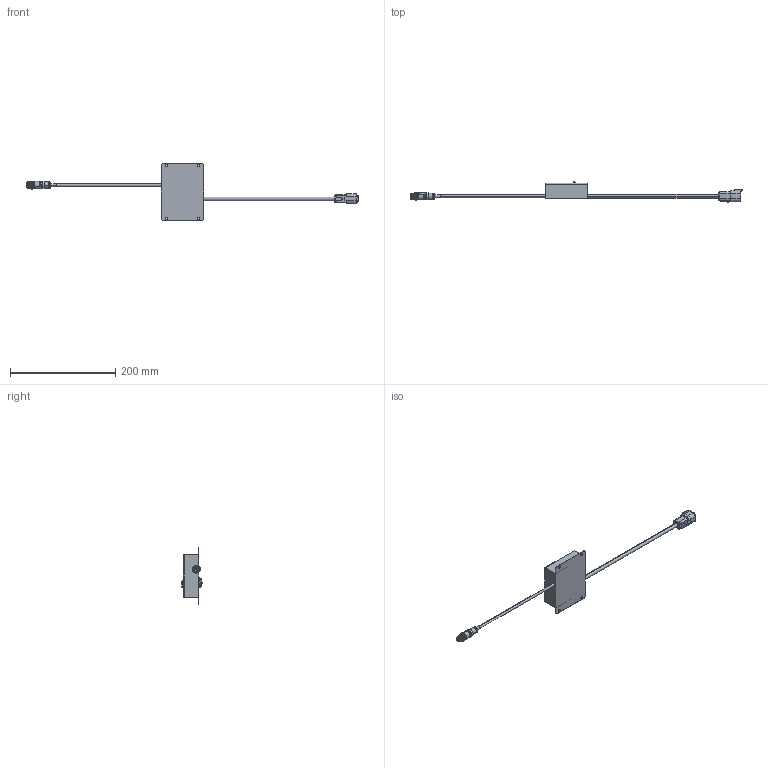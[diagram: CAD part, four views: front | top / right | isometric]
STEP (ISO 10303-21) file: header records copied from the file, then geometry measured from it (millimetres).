
FILE_DESCRIPTION((''),'2;1');
FILE_NAME('164000-1072X_ASM','2020-04-10T',('IB46307'),('YANMAR CO., LTD.'),'PRO/ENGINEER BY PARAMETRIC TECHNOLOGY CORPORATION, 2017170','PRO/ENGINEER BY PARAMETRIC TECHNOLOGY CORPORATION, 2017170','');
FILE_SCHEMA(('CONFIG_CONTROL_DESIGN'));
Length unit declared in the file: millimetre
Products named in the file (4): MAROL; C-DTM04-6P-99-3D; DEVICENET_M12; 164000-1072X_ASM
Assembly tree (3 placements, depth 2):
  164000-1072X_ASM
    MAROL
    C-DTM04-6P-99-3D
    DEVICENET_M12
Bounding box: 630.61 x 38.63 x 110 mm (x, y, z)
Volume: 222423 mm3; surface area: 45040.3 mm2
Topology: 3 solids, 3 shells, 744 faces, 1918 edges, 1189 vertices
Faces by surface type: plane 337, cylinder 237, torus 60, cone 42, sphere 34, bspline 34
Entity records: 25635 total; most frequent: CARTESIAN_POINT 7601, ORIENTED_EDGE 3772, DIRECTION 3748, EDGE_CURVE 1886, AXIS2_PLACEMENT_3D 1345, VERTEX_POINT 1189, VECTOR 1058, LINE 1058
